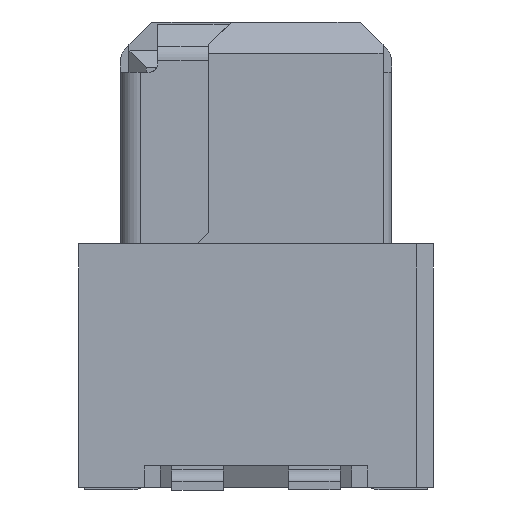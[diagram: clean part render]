
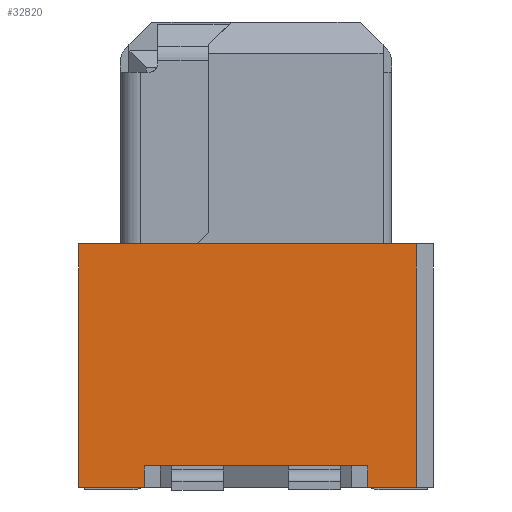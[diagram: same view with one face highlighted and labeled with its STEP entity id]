
A CAD part, front view. The second image highlights one B-rep face of the part: STEP entity #32820.
In plain terms, the highlighted planar face has unit normal (0, -1, 0) as drawn and (0, 0, -1) by its records, which use the part's own axes.
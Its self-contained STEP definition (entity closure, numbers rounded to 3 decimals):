
#9910=CARTESIAN_POINT('',(2.8,-4.25,-0.31));
#9920=VERTEX_POINT('',#9910);
#10000=CARTESIAN_POINT('',(2.8,0.,-0.31));
#10010=VERTEX_POINT('',#10000);
#10040=CARTESIAN_POINT('',(2.8,-2.125,-0.31));
#10050=DIRECTION('',(0.,-1.,0.));
#10060=VECTOR('',#10050,1.);
#10070=LINE('',#10040,#10060);
#10080=EDGE_CURVE('',#10010,#9920,#10070,.T.);
#12640=CARTESIAN_POINT('',(-3.1,-4.25,-0.31));
#12650=VERTEX_POINT('',#12640);
#12680=CARTESIAN_POINT('',(-3.1,0.,-0.31));
#12690=DIRECTION('',(0.,1.,0.));
#12700=VECTOR('',#12690,1.);
#12710=LINE('',#12680,#12700);
#12720=CARTESIAN_POINT('',(-3.1,0.,-0.31));
#12730=VERTEX_POINT('',#12720);
#12740=EDGE_CURVE('',#12650,#12730,#12710,.T.);
#15240=CARTESIAN_POINT('',(0.,-4.25,-0.31));
#15250=DIRECTION('',(-1.,0.,0.));
#15260=VECTOR('',#15250,1.);
#15270=LINE('',#15240,#15260);
#15280=EDGE_CURVE('',#9920,#12650,#15270,.T.);
#19220=CARTESIAN_POINT('',(1.95,-0.37,-0.31));
#19230=VERTEX_POINT('',#19220);
#19260=CARTESIAN_POINT('',(1.95,0.,-0.31));
#19270=DIRECTION('',(0.,-1.,0.));
#19280=VECTOR('',#19270,1.);
#19290=LINE('',#19260,#19280);
#19300=CARTESIAN_POINT('',(1.95,0.,-0.31));
#19310=VERTEX_POINT('',#19300);
#19320=EDGE_CURVE('',#19310,#19230,#19290,.T.);
#20080=CARTESIAN_POINT('',(-1.95,0.,-0.31));
#20090=VERTEX_POINT('',#20080);
#20120=CARTESIAN_POINT('',(-1.95,0.,-0.31));
#20130=DIRECTION('',(0.,-1.,0.));
#20140=VECTOR('',#20130,1.);
#20150=LINE('',#20120,#20140);
#20160=CARTESIAN_POINT('',(-1.95,-0.37,-0.31));
#20170=VERTEX_POINT('',#20160);
#20180=EDGE_CURVE('',#20090,#20170,#20150,.T.);
#24190=CARTESIAN_POINT('',(-3.1,-0.37,-0.31));
#24200=DIRECTION('',(1.,0.,0.));
#24210=VECTOR('',#24200,1.);
#24220=LINE('',#24190,#24210);
#24230=EDGE_CURVE('',#20170,#19230,#24220,.T.);
#32220=CARTESIAN_POINT('',(0.,0.,-0.31));
#32230=DIRECTION('',(-1.,0.,0.));
#32240=VECTOR('',#32230,1.);
#32250=LINE('',#32220,#32240);
#32260=EDGE_CURVE('',#10010,#19310,#32250,.T.);
#32320=CARTESIAN_POINT('',(0.,0.,-0.31));
#32330=DIRECTION('',(-1.,0.,0.));
#32340=VECTOR('',#32330,1.);
#32350=LINE('',#32320,#32340);
#32360=EDGE_CURVE('',#20090,#12730,#32350,.T.);
#32670=CARTESIAN_POINT('',(0.62,-4.94,-0.31));
#32680=DIRECTION('',(0.,0.,-1.));
#32690=DIRECTION('',(1.,0.,0.));
#32700=AXIS2_PLACEMENT_3D('',#32670,#32680,#32690);
#32710=PLANE('',#32700);
#32720=ORIENTED_EDGE('',*,*,#10080,.T.);
#32730=ORIENTED_EDGE('',*,*,#32260,.F.);
#32740=ORIENTED_EDGE('',*,*,#19320,.F.);
#32750=ORIENTED_EDGE('',*,*,#24230,.T.);
#32760=ORIENTED_EDGE('',*,*,#20180,.T.);
#32770=ORIENTED_EDGE('',*,*,#32360,.F.);
#32780=ORIENTED_EDGE('',*,*,#12740,.T.);
#32790=ORIENTED_EDGE('',*,*,#15280,.T.);
#32800=EDGE_LOOP('',(#32790,#32780,#32770,#32760,#32750,#32740,#32730,
#32720));
#32810=FACE_OUTER_BOUND('',#32800,.T.);
#32820=ADVANCED_FACE('',(#32810),#32710,.T.);
